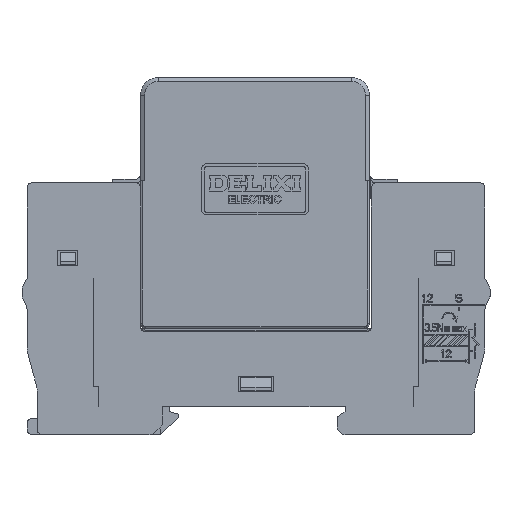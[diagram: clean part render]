
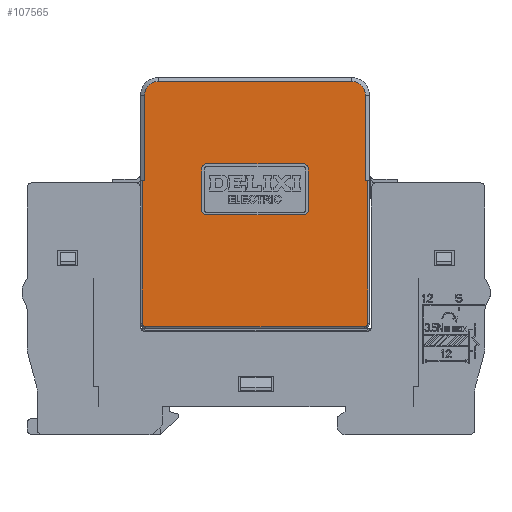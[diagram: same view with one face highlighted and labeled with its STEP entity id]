
A CAD part, front view. The second image highlights one B-rep face of the part: STEP entity #107565.
In plain terms, the highlighted planar face has unit normal (0, -1, 0) as drawn and (0, 1, 0) by its records, which use the part's own axes.
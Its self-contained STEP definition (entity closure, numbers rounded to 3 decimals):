
#94685=DIRECTION('',(1.,0.,0.));
#94686=VECTOR('',#94685,38.);
#94687=CARTESIAN_POINT('',(3.5,17.7,48.5));
#94688=LINE('',#94687,#94686);
#94706=DIRECTION('',(0.,0.,-1.));
#94707=VECTOR('',#94706,16.8);
#94708=CARTESIAN_POINT('',(44.2,17.7,45.8));
#94709=LINE('',#94708,#94707);
#94723=CARTESIAN_POINT('',(1.,17.7,1.));
#94724=DIRECTION('',(0.,-1.,0.));
#94725=DIRECTION('',(-1.,0.,0.));
#94726=AXIS2_PLACEMENT_3D('',#94723,#94724,#94725);
#94728=CARTESIAN_POINT('',(44.,17.7,1.));
#94729=DIRECTION('',(0.,-1.,0.));
#94730=DIRECTION('',(0.,0.,-1.));
#94731=AXIS2_PLACEMENT_3D('',#94728,#94729,#94730);
#94733=DIRECTION('',(-1.,0.,0.));
#94734=VECTOR('',#94733,0.5);
#94735=CARTESIAN_POINT('',(44.7,17.7,29.));
#94736=LINE('',#94735,#94734);
#94737=CARTESIAN_POINT('',(41.5,17.7,45.8));
#94738=DIRECTION('',(0.,-1.,0.));
#94739=DIRECTION('',(1.,0.,0.));
#94740=AXIS2_PLACEMENT_3D('',#94737,#94738,#94739);
#94742=CARTESIAN_POINT('',(3.5,17.7,45.8));
#94743=DIRECTION('',(0.,-1.,0.));
#94744=DIRECTION('',(0.,0.,1.));
#94745=AXIS2_PLACEMENT_3D('',#94742,#94743,#94744);
#94747=DIRECTION('',(-1.,0.,0.));
#94748=VECTOR('',#94747,0.5);
#94749=CARTESIAN_POINT('',(0.8,17.7,29.));
#94750=LINE('',#94749,#94748);
#94751=DIRECTION('',(0.,0.,1.));
#94752=VECTOR('',#94751,8.);
#94753=CARTESIAN_POINT('',(12.,17.7,23.3));
#94754=LINE('',#94753,#94752);
#94755=CARTESIAN_POINT('',(13.,17.7,31.3));
#94756=DIRECTION('',(0.,1.,0.));
#94757=DIRECTION('',(-1.,0.,0.));
#94758=AXIS2_PLACEMENT_3D('',#94755,#94756,#94757);
#94760=CARTESIAN_POINT('',(32.,17.7,31.3));
#94761=DIRECTION('',(0.,1.,0.));
#94762=DIRECTION('',(0.,0.,1.));
#94763=AXIS2_PLACEMENT_3D('',#94760,#94761,#94762);
#94765=DIRECTION('',(0.,0.,-1.));
#94766=VECTOR('',#94765,8.);
#94767=CARTESIAN_POINT('',(33.,17.7,31.3));
#94768=LINE('',#94767,#94766);
#94769=CARTESIAN_POINT('',(32.,17.7,23.3));
#94770=DIRECTION('',(0.,1.,0.));
#94771=DIRECTION('',(1.,0.,0.));
#94772=AXIS2_PLACEMENT_3D('',#94769,#94770,#94771);
#94774=DIRECTION('',(-1.,0.,0.));
#94775=VECTOR('',#94774,19.);
#94776=CARTESIAN_POINT('',(32.,17.7,22.3));
#94777=LINE('',#94776,#94775);
#94778=CARTESIAN_POINT('',(13.,17.7,23.3));
#94779=DIRECTION('',(0.,1.,0.));
#94780=DIRECTION('',(0.,0.,-1.));
#94781=AXIS2_PLACEMENT_3D('',#94778,#94779,#94780);
#94798=DIRECTION('',(-1.,0.,0.));
#94799=VECTOR('',#94798,43.);
#94800=CARTESIAN_POINT('',(44.,17.7,0.3));
#94801=LINE('',#94800,#94799);
#94821=DIRECTION('',(0.,0.,-1.));
#94822=VECTOR('',#94821,28.);
#94823=CARTESIAN_POINT('',(44.7,17.7,29.));
#94824=LINE('',#94823,#94822);
#95504=DIRECTION('',(0.,0.,1.));
#95505=VECTOR('',#95504,28.);
#95506=CARTESIAN_POINT('',(0.3,17.7,1.));
#95507=LINE('',#95506,#95505);
#95521=DIRECTION('',(0.,0.,1.));
#95522=VECTOR('',#95521,16.8);
#95523=CARTESIAN_POINT('',(0.8,17.7,29.));
#95524=LINE('',#95523,#95522);
#95565=DIRECTION('',(-1.,0.,0.));
#95566=VECTOR('',#95565,19.);
#95567=CARTESIAN_POINT('',(32.,17.7,32.3));
#95568=LINE('',#95567,#95566);
#102860=CARTESIAN_POINT('',(1.,17.7,0.3));
#102861=VERTEX_POINT('',#102860);
#102862=CARTESIAN_POINT('',(0.3,17.7,1.));
#102863=VERTEX_POINT('',#102862);
#102864=CARTESIAN_POINT('',(44.,17.7,0.3));
#102865=VERTEX_POINT('',#102864);
#102866=CARTESIAN_POINT('',(44.7,17.7,1.));
#102867=VERTEX_POINT('',#102866);
#102868=CARTESIAN_POINT('',(44.7,17.7,29.));
#102869=VERTEX_POINT('',#102868);
#102870=CARTESIAN_POINT('',(44.2,17.7,29.));
#102871=VERTEX_POINT('',#102870);
#102872=CARTESIAN_POINT('',(44.2,17.7,45.8));
#102873=VERTEX_POINT('',#102872);
#102876=CARTESIAN_POINT('',(41.5,17.7,48.5));
#102877=VERTEX_POINT('',#102876);
#102916=CARTESIAN_POINT('',(3.5,17.7,48.5));
#102917=VERTEX_POINT('',#102916);
#102918=CARTESIAN_POINT('',(0.8,17.7,45.8));
#102919=VERTEX_POINT('',#102918);
#102920=CARTESIAN_POINT('',(0.8,17.7,29.));
#102921=VERTEX_POINT('',#102920);
#102922=CARTESIAN_POINT('',(0.3,17.7,29.));
#102923=VERTEX_POINT('',#102922);
#102924=CARTESIAN_POINT('',(12.,17.7,23.3));
#102925=CARTESIAN_POINT('',(12.,17.7,31.3));
#102926=VERTEX_POINT('',#102924);
#102927=VERTEX_POINT('',#102925);
#102928=CARTESIAN_POINT('',(13.,17.7,32.3));
#102929=VERTEX_POINT('',#102928);
#102930=CARTESIAN_POINT('',(32.,17.7,32.3));
#102931=VERTEX_POINT('',#102930);
#102932=CARTESIAN_POINT('',(33.,17.7,31.3));
#102933=VERTEX_POINT('',#102932);
#102934=CARTESIAN_POINT('',(33.,17.7,23.3));
#102935=VERTEX_POINT('',#102934);
#102936=CARTESIAN_POINT('',(32.,17.7,22.3));
#102937=VERTEX_POINT('',#102936);
#102938=CARTESIAN_POINT('',(13.,17.7,22.3));
#102939=VERTEX_POINT('',#102938);
#107521=CARTESIAN_POINT('',(22.5,17.7,0.));
#107522=DIRECTION('',(0.,1.,0.));
#107523=DIRECTION('',(0.,0.,1.));
#107524=AXIS2_PLACEMENT_3D('',#107521,#107522,#107523);
#107525=PLANE('',#107524);
#107527=ORIENTED_EDGE('',*,*,#107526,.T.);
#107529=ORIENTED_EDGE('',*,*,#107528,.F.);
#107531=ORIENTED_EDGE('',*,*,#107530,.T.);
#107533=ORIENTED_EDGE('',*,*,#107532,.F.);
#107534=ORIENTED_EDGE('',*,*,#107514,.T.);
#107535=ORIENTED_EDGE('',*,*,#107502,.F.);
#107536=ORIENTED_EDGE('',*,*,#107488,.T.);
#107537=ORIENTED_EDGE('',*,*,#107473,.F.);
#107538=ORIENTED_EDGE('',*,*,#107459,.T.);
#107540=ORIENTED_EDGE('',*,*,#107539,.F.);
#107542=ORIENTED_EDGE('',*,*,#107541,.T.);
#107544=ORIENTED_EDGE('',*,*,#107543,.F.);
#107545=EDGE_LOOP('',(#107527,#107529,#107531,#107533,#107534,#107535,#107536,
#107537,#107538,#107540,#107542,#107544));
#107546=FACE_OUTER_BOUND('',#107545,.F.);
#107548=ORIENTED_EDGE('',*,*,#107547,.T.);
#107550=ORIENTED_EDGE('',*,*,#107549,.T.);
#107552=ORIENTED_EDGE('',*,*,#107551,.F.);
#107554=ORIENTED_EDGE('',*,*,#107553,.T.);
#107556=ORIENTED_EDGE('',*,*,#107555,.T.);
#107558=ORIENTED_EDGE('',*,*,#107557,.T.);
#107560=ORIENTED_EDGE('',*,*,#107559,.T.);
#107562=ORIENTED_EDGE('',*,*,#107561,.T.);
#107563=EDGE_LOOP('',(#107548,#107550,#107552,#107554,#107556,#107558,#107560,
#107562));
#107564=FACE_BOUND('',#107563,.F.);
#107565=ADVANCED_FACE('',(#107546,#107564),#107525,.T.);
#94727=CIRCLE('',#94726,0.7);
#94732=CIRCLE('',#94731,0.7);
#94741=CIRCLE('',#94740,2.7);
#94746=CIRCLE('',#94745,2.7);
#94759=CIRCLE('',#94758,1.);
#94764=CIRCLE('',#94763,1.);
#94773=CIRCLE('',#94772,1.);
#94782=CIRCLE('',#94781,1.);
#107459=EDGE_CURVE('',#102917,#102919,#94746,.T.);
#107473=EDGE_CURVE('',#102917,#102877,#94688,.T.);
#107488=EDGE_CURVE('',#102873,#102877,#94741,.T.);
#107502=EDGE_CURVE('',#102873,#102871,#94709,.T.);
#107514=EDGE_CURVE('',#102869,#102871,#94736,.T.);
#107526=EDGE_CURVE('',#102863,#102861,#94727,.T.);
#107528=EDGE_CURVE('',#102865,#102861,#94801,.T.);
#107530=EDGE_CURVE('',#102865,#102867,#94732,.T.);
#107532=EDGE_CURVE('',#102869,#102867,#94824,.T.);
#107539=EDGE_CURVE('',#102921,#102919,#95524,.T.);
#107541=EDGE_CURVE('',#102921,#102923,#94750,.T.);
#107543=EDGE_CURVE('',#102863,#102923,#95507,.T.);
#107547=EDGE_CURVE('',#102926,#102927,#94754,.T.);
#107549=EDGE_CURVE('',#102927,#102929,#94759,.T.);
#107551=EDGE_CURVE('',#102931,#102929,#95568,.T.);
#107553=EDGE_CURVE('',#102931,#102933,#94764,.T.);
#107555=EDGE_CURVE('',#102933,#102935,#94768,.T.);
#107557=EDGE_CURVE('',#102935,#102937,#94773,.T.);
#107559=EDGE_CURVE('',#102937,#102939,#94777,.T.);
#107561=EDGE_CURVE('',#102939,#102926,#94782,.T.);
